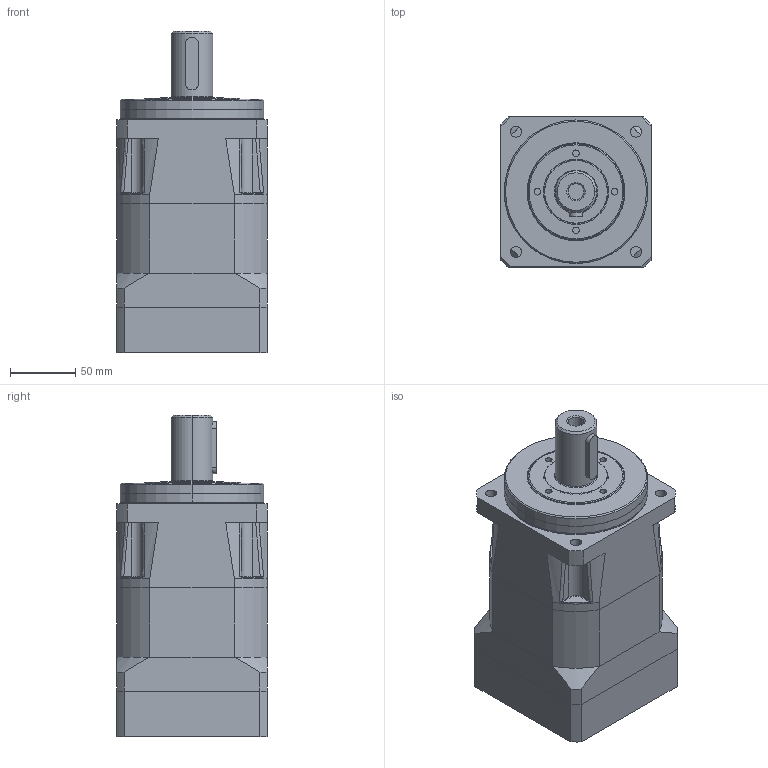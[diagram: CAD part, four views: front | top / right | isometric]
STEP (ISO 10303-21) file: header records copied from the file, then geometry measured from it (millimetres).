
FILE_DESCRIPTION((''),'2;1');
FILE_NAME('PS115-XXX-000-X2_ASM','2009-03-24T',('ata7311'),(''),'PRO/ENGINEER BY PARAMETRIC TECHNOLOGY CORPORATION, 2006300','PRO/ENGINEER BY PARAMETRIC TECHNOLOGY CORPORATION, 2006300','');
FILE_SCHEMA(('CONFIG_CONTROL_DESIGN'));
Products named in the file (15): 13359XXX; 13363000; HD202-0007; 10087125; 13355XXX_ASM; 13363001; 13364000; 13360XXX; 13120003; M6X25; 12292001; 13356XXX_ASM; 13458005; M6X50; PS115-XXX-000-X2_ASM
Assembly tree (18 placements, depth 3):
  PS115-XXX-000-X2_ASM
    13355XXX_ASM
      13359XXX
      13363000
      HD202-0007
      10087125
    13363001
    13356XXX_ASM
      13364000
      13360XXX
      13120003
      M6X25
      12292001  x2
    13458005
    M6X50  x4
Bounding box: 115 x 115.01 x 246.4 mm (x, y, z)
Volume: 1320659.5 mm3; surface area: 281612.5 mm2
Topology: 16 solids, 16 shells, 519 faces, 1205 edges, 776 vertices
Faces by surface type: cylinder 234, plane 187, cone 50, torus 24, bspline 24
Entity records: 14763 total; most frequent: CARTESIAN_POINT 3830, DIRECTION 2385, ORIENTED_EDGE 2110, EDGE_CURVE 1055, AXIS2_PLACEMENT_3D 983, VERTEX_POINT 678, EDGE_LOOP 541, CIRCLE 515
